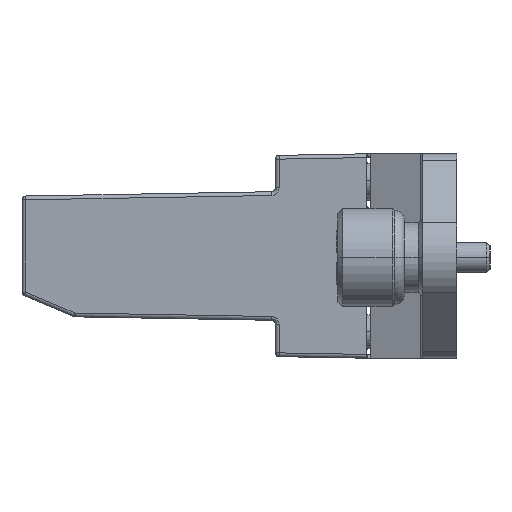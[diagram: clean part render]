
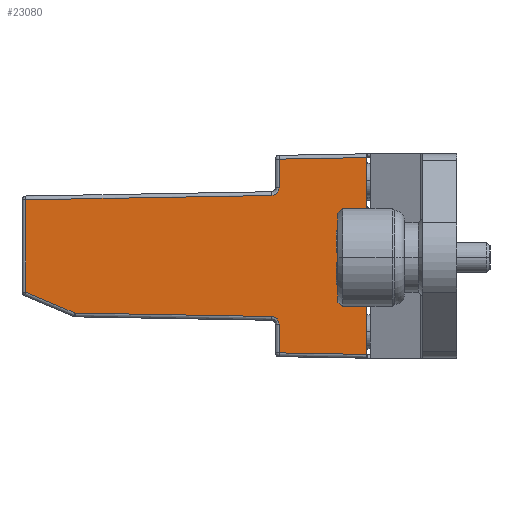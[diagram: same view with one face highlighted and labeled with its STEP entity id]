
A CAD part, left-side view. The second image highlights one B-rep face of the part: STEP entity #23080.
In plain terms, the highlighted planar face has unit normal (-1, 0.018, 0).
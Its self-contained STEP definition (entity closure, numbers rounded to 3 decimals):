
#10427=CARTESIAN_POINT('',(-109.,-22.755,13.));
#10441=CARTESIAN_POINT('',(-109.,-22.755,-13.));
#10447=DIRECTION('',(0.,0.,1.));
#10448=VECTOR('',#10447,26.);
#10449=CARTESIAN_POINT('',(-109.,-22.755,-13.));
#10450=LINE('',#10449,#10448);
#11379=DIRECTION('',(0.017,1.,-0.017));
#11380=VECTOR('',#11379,32.492);
#11381=CARTESIAN_POINT('',(-108.781,-10.219,
7.992));
#11382=LINE('',#11381,#11380);
#11383=CARTESIAN_POINT('',(-108.781,-10.219,
7.992));
#11384=CARTESIAN_POINT('',(-108.784,-10.356,
7.994));
#11385=CARTESIAN_POINT('',(-108.788,-10.606,
8.05));
#11386=CARTESIAN_POINT('',(-108.794,-10.937,
8.275));
#11387=CARTESIAN_POINT('',(-108.797,-11.153,
8.613));
#11388=CARTESIAN_POINT('',(-108.798,-11.201,
8.859));
#11389=CARTESIAN_POINT('',(-108.798,-11.201,
8.991));
#11391=DIRECTION('',(0.,0.,1.));
#11392=VECTOR('',#11391,3.807);
#11393=CARTESIAN_POINT('',(-108.798,-11.201,
8.991));
#11394=LINE('',#11393,#11392);
#11395=DIRECTION('',(-0.017,-1.,0.017));
#11396=VECTOR('',#11395,11.557);
#11397=CARTESIAN_POINT('',(-108.798,-11.201,
12.798));
#11398=LINE('',#11397,#11396);
#11399=DIRECTION('',(0.017,1.,0.017));
#11400=VECTOR('',#11399,11.557);
#11401=CARTESIAN_POINT('',(-109.,-22.755,-13.));
#11402=LINE('',#11401,#11400);
#11403=DIRECTION('',(0.,0.,1.));
#11404=VECTOR('',#11403,3.807);
#11405=CARTESIAN_POINT('',(-108.798,-11.201,
-12.798));
#11406=LINE('',#11405,#11404);
#11407=CARTESIAN_POINT('',(-108.798,-11.201,
-8.991));
#11408=CARTESIAN_POINT('',(-108.798,-11.201,
-8.859));
#11409=CARTESIAN_POINT('',(-108.797,-11.153,
-8.613));
#11410=CARTESIAN_POINT('',(-108.794,-10.937,
-8.275));
#11411=CARTESIAN_POINT('',(-108.788,-10.606,
-8.05));
#11412=CARTESIAN_POINT('',(-108.784,-10.356,
-7.994));
#11413=CARTESIAN_POINT('',(-108.781,-10.219,
-7.992));
#11415=DIRECTION('',(-0.017,-1.,-0.017));
#11416=VECTOR('',#11415,25.975);
#11417=CARTESIAN_POINT('',(-108.328,15.748,
-7.538));
#11418=LINE('',#11417,#11416);
#11419=DIRECTION('',(-0.016,-0.92,-0.391));
#11420=VECTOR('',#11419,7.08);
#11421=CARTESIAN_POINT('',(-108.214,22.264,
-4.769));
#11422=LINE('',#11421,#11420);
#11423=DIRECTION('',(0.,0.,1.));
#11424=VECTOR('',#11423,12.194);
#11425=CARTESIAN_POINT('',(-108.214,22.264,
-4.769));
#11426=LINE('',#11425,#11424);
#20638=VERTEX_POINT('',#10427);
#20639=VERTEX_POINT('',#10441);
#20655=CARTESIAN_POINT('',(-108.798,-11.201,
12.798));
#20656=VERTEX_POINT('',#20655);
#20659=CARTESIAN_POINT('',(-108.798,-11.201,
8.991));
#20660=VERTEX_POINT('',#20659);
#20681=CARTESIAN_POINT('',(-108.798,-11.201,
-12.798));
#20682=CARTESIAN_POINT('',(-108.798,-11.201,
-8.991));
#20683=VERTEX_POINT('',#20681);
#20684=VERTEX_POINT('',#20682);
#20691=CARTESIAN_POINT('',(-108.214,22.264,
-4.769));
#20692=CARTESIAN_POINT('',(-108.214,22.264,
7.425));
#20693=VERTEX_POINT('',#20691);
#20694=VERTEX_POINT('',#20692);
#20713=CARTESIAN_POINT('',(-108.781,-10.219,
-7.992));
#20714=VERTEX_POINT('',#20713);
#20719=CARTESIAN_POINT('',(-108.781,-10.219,
7.992));
#20720=VERTEX_POINT('',#20719);
#20725=CARTESIAN_POINT('',(-108.328,15.748,
-7.538));
#20726=VERTEX_POINT('',#20725);
#23055=CARTESIAN_POINT('',(-109.,-22.755,-16.193));
#23056=DIRECTION('',(-1.,0.017,0.));
#23057=DIRECTION('',(0.,0.,-1.));
#23058=AXIS2_PLACEMENT_3D('',#23055,#23056,#23057);
#23059=PLANE('',#23058);
#23061=ORIENTED_EDGE('',*,*,#23060,.F.);
#23062=ORIENTED_EDGE('',*,*,#23046,.T.);
#23063=ORIENTED_EDGE('',*,*,#22789,.T.);
#23064=ORIENTED_EDGE('',*,*,#22763,.T.);
#23065=ORIENTED_EDGE('',*,*,#22498,.F.);
#23067=ORIENTED_EDGE('',*,*,#23066,.T.);
#23069=ORIENTED_EDGE('',*,*,#23068,.T.);
#23071=ORIENTED_EDGE('',*,*,#23070,.T.);
#23073=ORIENTED_EDGE('',*,*,#23072,.F.);
#23075=ORIENTED_EDGE('',*,*,#23074,.F.);
#23077=ORIENTED_EDGE('',*,*,#23076,.T.);
#23078=EDGE_LOOP('',(#23061,#23062,#23063,#23064,#23065,#23067,#23069,#23071,
#23073,#23075,#23077));
#23079=FACE_OUTER_BOUND('',#23078,.F.);
#23080=ADVANCED_FACE('',(#23079),#23059,.T.);
#11390=B_SPLINE_CURVE_WITH_KNOTS('',3,(#11383,#11384,#11385,#11386,#11387,
#11388,#11389),.UNSPECIFIED.,.F.,.F.,(4,1,1,1,4),(0.,0.25,0.5,0.75,
1.),.UNSPECIFIED.);
#11414=B_SPLINE_CURVE_WITH_KNOTS('',3,(#11407,#11408,#11409,#11410,#11411,
#11412,#11413),.UNSPECIFIED.,.F.,.F.,(4,1,1,1,4),(0.,0.25,0.5,0.75,
1.),.UNSPECIFIED.);
#22498=EDGE_CURVE('',#20639,#20638,#10450,.T.);
#22763=EDGE_CURVE('',#20656,#20638,#11398,.T.);
#22789=EDGE_CURVE('',#20660,#20656,#11394,.T.);
#23046=EDGE_CURVE('',#20720,#20660,#11390,.T.);
#23060=EDGE_CURVE('',#20720,#20694,#11382,.T.);
#23066=EDGE_CURVE('',#20639,#20683,#11402,.T.);
#23068=EDGE_CURVE('',#20683,#20684,#11406,.T.);
#23070=EDGE_CURVE('',#20684,#20714,#11414,.T.);
#23072=EDGE_CURVE('',#20726,#20714,#11418,.T.);
#23074=EDGE_CURVE('',#20693,#20726,#11422,.T.);
#23076=EDGE_CURVE('',#20693,#20694,#11426,.T.);
